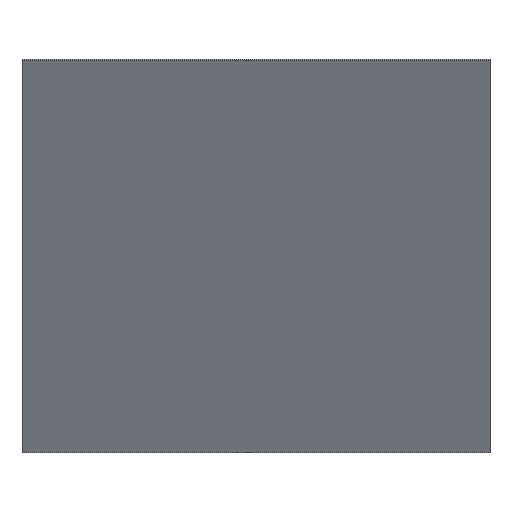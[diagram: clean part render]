
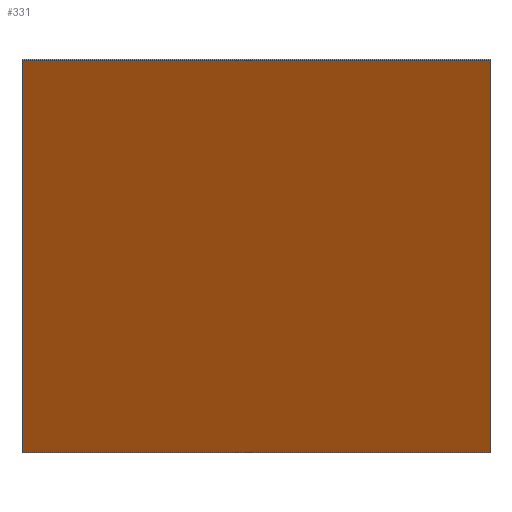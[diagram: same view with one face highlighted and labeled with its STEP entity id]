
A CAD part, left-side view. The second image highlights one B-rep face of the part: STEP entity #331.
In plain terms, the highlighted planar face has unit normal (-0.883, 0, -0.47).
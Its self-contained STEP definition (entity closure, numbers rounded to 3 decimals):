
#22 = VERTEX_POINT('',#23);
#23 = CARTESIAN_POINT('',(151.1,-138.913,
    75.063));
#32 = PLANE('',#33);
#33 = AXIS2_PLACEMENT_3D('',#34,#35,#36);
#34 = CARTESIAN_POINT('',(151.1,-138.913,
    75.063));
#35 = DIRECTION('',(0.,1.,0.));
#36 = DIRECTION('',(0.47,0.,-0.883));
#44 = PLANE('',#45);
#45 = AXIS2_PLACEMENT_3D('',#46,#47,#48);
#46 = CARTESIAN_POINT('',(151.1,-94.913,
    75.063));
#47 = DIRECTION('',(0.47,0.,-0.883));
#48 = DIRECTION('',(0.,-1.,0.));
#85 = VERTEX_POINT('',#86);
#86 = CARTESIAN_POINT('',(170.767,-138.913,
    38.147));
#100 = PLANE('',#101);
#101 = AXIS2_PLACEMENT_3D('',#102,#103,#104);
#102 = CARTESIAN_POINT('',(170.767,-138.913,
    38.147));
#103 = DIRECTION('',(-0.47,0.,0.883));
#104 = DIRECTION('',(0.,1.,0.));
#112 = EDGE_CURVE('',#22,#85,#113,.T.);
#113 = SURFACE_CURVE('',#114,(#118,#125),.PCURVE_S1.);
#114 = LINE('',#115,#116);
#115 = CARTESIAN_POINT('',(151.1,-138.913,
    75.063));
#116 = VECTOR('',#117,1.);
#117 = DIRECTION('',(0.47,0.,-0.883));
#118 = PCURVE('',#32,#119);
#119 = DEFINITIONAL_REPRESENTATION('',(#120),#124);
#120 = LINE('',#121,#122);
#121 = CARTESIAN_POINT('',(0.,0.));
#122 = VECTOR('',#123,1.);
#123 = DIRECTION('',(1.,0.));
#124 = ( GEOMETRIC_REPRESENTATION_CONTEXT(2) 
PARAMETRIC_REPRESENTATION_CONTEXT() REPRESENTATION_CONTEXT('2D SPACE',''
  ) );
#125 = PCURVE('',#126,#131);
#126 = PLANE('',#127);
#127 = AXIS2_PLACEMENT_3D('',#128,#129,#130);
#128 = CARTESIAN_POINT('',(160.934,-116.913,
    56.605));
#129 = DIRECTION('',(0.883,0.,0.47));
#130 = DIRECTION('',(-0.47,0.,0.883));
#131 = DEFINITIONAL_REPRESENTATION('',(#132),#136);
#132 = LINE('',#133,#134);
#133 = CARTESIAN_POINT('',(20.914,22.));
#134 = VECTOR('',#135,1.);
#135 = DIRECTION('',(-1.,0.));
#136 = ( GEOMETRIC_REPRESENTATION_CONTEXT(2) 
PARAMETRIC_REPRESENTATION_CONTEXT() REPRESENTATION_CONTEXT('2D SPACE',''
  ) );
#166 = VERTEX_POINT('',#167);
#167 = CARTESIAN_POINT('',(170.767,-94.913,
    38.147));
#181 = PLANE('',#182);
#182 = AXIS2_PLACEMENT_3D('',#183,#184,#185);
#183 = CARTESIAN_POINT('',(170.767,-94.913,
    38.147));
#184 = DIRECTION('',(-0.,-1.,0.));
#185 = DIRECTION('',(-0.47,0.,0.883));
#193 = EDGE_CURVE('',#85,#166,#194,.T.);
#194 = SURFACE_CURVE('',#195,(#199,#206),.PCURVE_S1.);
#195 = LINE('',#196,#197);
#196 = CARTESIAN_POINT('',(170.767,-138.913,
    38.147));
#197 = VECTOR('',#198,1.);
#198 = DIRECTION('',(0.,1.,0.));
#199 = PCURVE('',#100,#200);
#200 = DEFINITIONAL_REPRESENTATION('',(#201),#205);
#201 = LINE('',#202,#203);
#202 = CARTESIAN_POINT('',(0.,0.));
#203 = VECTOR('',#204,1.);
#204 = DIRECTION('',(1.,0.));
#205 = ( GEOMETRIC_REPRESENTATION_CONTEXT(2) 
PARAMETRIC_REPRESENTATION_CONTEXT() REPRESENTATION_CONTEXT('2D SPACE',''
  ) );
#206 = PCURVE('',#126,#207);
#207 = DEFINITIONAL_REPRESENTATION('',(#208),#212);
#208 = LINE('',#209,#210);
#209 = CARTESIAN_POINT('',(-20.914,22.));
#210 = VECTOR('',#211,1.);
#211 = DIRECTION('',(0.,-1.));
#212 = ( GEOMETRIC_REPRESENTATION_CONTEXT(2) 
PARAMETRIC_REPRESENTATION_CONTEXT() REPRESENTATION_CONTEXT('2D SPACE',''
  ) );
#242 = VERTEX_POINT('',#243);
#243 = CARTESIAN_POINT('',(151.1,-94.913,
    75.063));
#264 = EDGE_CURVE('',#166,#242,#265,.T.);
#265 = SURFACE_CURVE('',#266,(#270,#277),.PCURVE_S1.);
#266 = LINE('',#267,#268);
#267 = CARTESIAN_POINT('',(170.767,-94.913,
    38.147));
#268 = VECTOR('',#269,1.);
#269 = DIRECTION('',(-0.47,0.,0.883));
#270 = PCURVE('',#181,#271);
#271 = DEFINITIONAL_REPRESENTATION('',(#272),#276);
#272 = LINE('',#273,#274);
#273 = CARTESIAN_POINT('',(0.,0.));
#274 = VECTOR('',#275,1.);
#275 = DIRECTION('',(1.,0.));
#276 = ( GEOMETRIC_REPRESENTATION_CONTEXT(2) 
PARAMETRIC_REPRESENTATION_CONTEXT() REPRESENTATION_CONTEXT('2D SPACE',''
  ) );
#277 = PCURVE('',#126,#278);
#278 = DEFINITIONAL_REPRESENTATION('',(#279),#283);
#279 = LINE('',#280,#281);
#280 = CARTESIAN_POINT('',(-20.914,-22.));
#281 = VECTOR('',#282,1.);
#282 = DIRECTION('',(1.,0.));
#283 = ( GEOMETRIC_REPRESENTATION_CONTEXT(2) 
PARAMETRIC_REPRESENTATION_CONTEXT() REPRESENTATION_CONTEXT('2D SPACE',''
  ) );
#311 = EDGE_CURVE('',#242,#22,#312,.T.);
#312 = SURFACE_CURVE('',#313,(#317,#324),.PCURVE_S1.);
#313 = LINE('',#314,#315);
#314 = CARTESIAN_POINT('',(151.1,-94.913,
    75.063));
#315 = VECTOR('',#316,1.);
#316 = DIRECTION('',(0.,-1.,0.));
#317 = PCURVE('',#44,#318);
#318 = DEFINITIONAL_REPRESENTATION('',(#319),#323);
#319 = LINE('',#320,#321);
#320 = CARTESIAN_POINT('',(0.,-0.));
#321 = VECTOR('',#322,1.);
#322 = DIRECTION('',(1.,0.));
#323 = ( GEOMETRIC_REPRESENTATION_CONTEXT(2) 
PARAMETRIC_REPRESENTATION_CONTEXT() REPRESENTATION_CONTEXT('2D SPACE',''
  ) );
#324 = PCURVE('',#126,#325);
#325 = DEFINITIONAL_REPRESENTATION('',(#326),#330);
#326 = LINE('',#327,#328);
#327 = CARTESIAN_POINT('',(20.914,-22.));
#328 = VECTOR('',#329,1.);
#329 = DIRECTION('',(0.,1.));
#330 = ( GEOMETRIC_REPRESENTATION_CONTEXT(2) 
PARAMETRIC_REPRESENTATION_CONTEXT() REPRESENTATION_CONTEXT('2D SPACE',''
  ) );
#331 = ADVANCED_FACE('',(#332),#126,.F.);
#332 = FACE_BOUND('',#333,.F.);
#333 = EDGE_LOOP('',(#334,#335,#336,#337));
#334 = ORIENTED_EDGE('',*,*,#112,.T.);
#335 = ORIENTED_EDGE('',*,*,#193,.T.);
#336 = ORIENTED_EDGE('',*,*,#264,.T.);
#337 = ORIENTED_EDGE('',*,*,#311,.T.);
